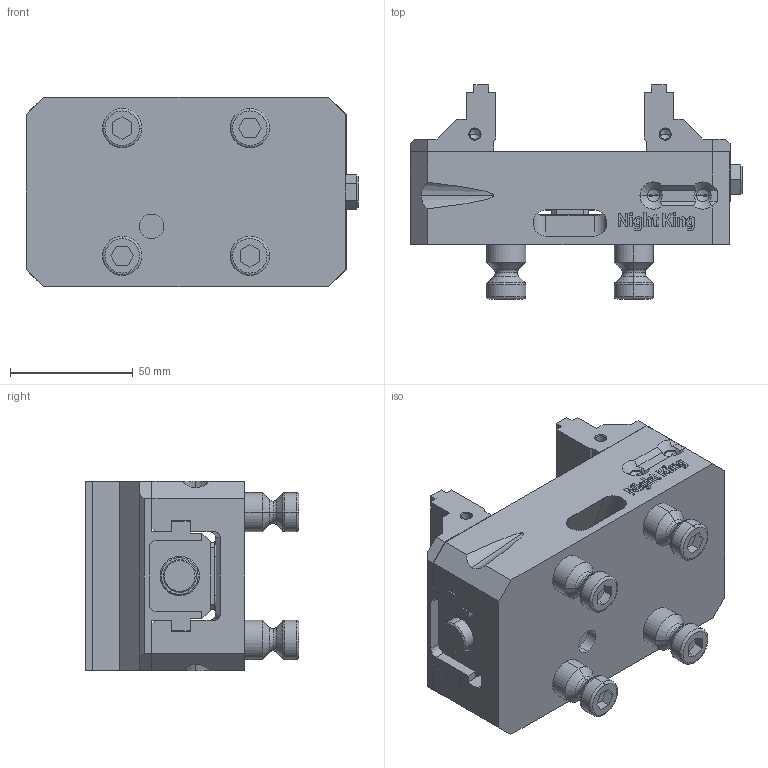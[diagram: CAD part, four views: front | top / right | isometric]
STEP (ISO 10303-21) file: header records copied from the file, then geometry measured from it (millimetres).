
FILE_DESCRIPTION (( 'STEP AP214' ), '1' );
FILE_NAME ('68120-77.STEP', '2022-09-28T08:25:46', ( '' ), ( '' ), 'SwSTEP 2.0', 'SolidWorks 2021', '' );
FILE_SCHEMA (( 'AUTOMOTIVE_DESIGN' ));
Length unit declared in the file: millimetre
Products named in the file (3): Makro-Grip_68120-77; 68077-7720; 68120-77
Assembly tree (3 placements, depth 2):
  68120-77
    Makro-Grip_68120-77
    68077-7720  x2
Bounding box: 135.14 x 87 x 77.2 mm (x, y, z)
Volume: 379173.7 mm3; surface area: 94540 mm2
Topology: 8 solids, 8 shells, 713 faces, 1836 edges, 1166 vertices
Faces by surface type: plane 423, cylinder 96, bspline 88, cone 74, torus 32
Entity records: 29675 total; most frequent: CARTESIAN_POINT 8091, ORIENTED_EDGE 3266, DIRECTION 2787, EDGE_CURVE 1633, VECTOR 1151, LINE 1151, VERTEX_POINT 1050, AXIS2_PLACEMENT_3D 818
